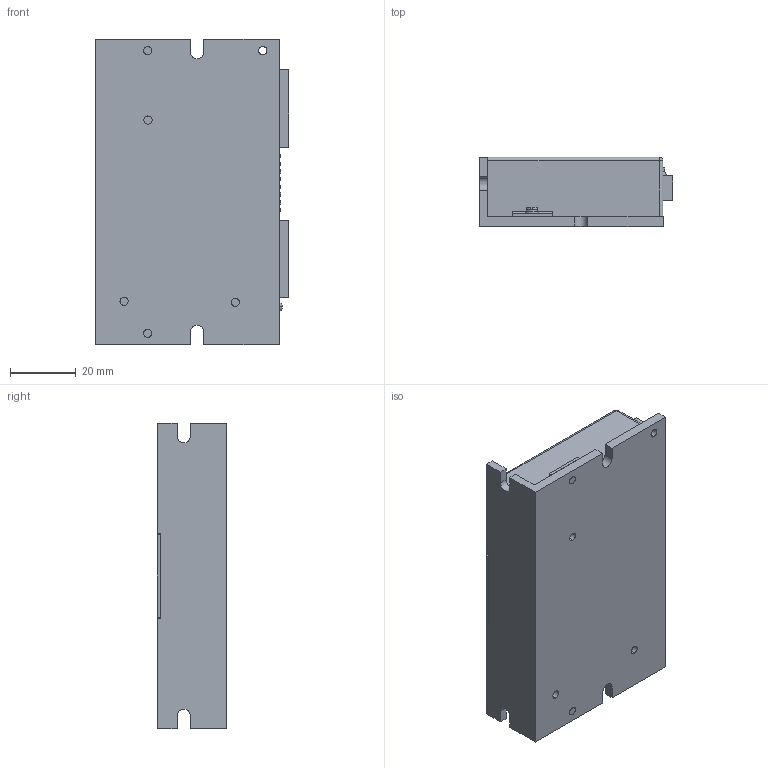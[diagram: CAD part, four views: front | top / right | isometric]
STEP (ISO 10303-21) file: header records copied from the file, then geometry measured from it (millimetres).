
FILE_DESCRIPTION((''),'2;1');
FILE_NAME('2SN422','2025-07-08T17:17:59',('Administrator'),(''),'CREO PARAMETRIC BY PTC INC, 2018400','CREO PARAMETRIC BY PTC INC, 2018400','');
FILE_SCHEMA(('CONFIG_CONTROL_DESIGN'));
Products named in the file (1): 2SN422
Bounding box: 58.9 x 21 x 93 mm (x, y, z)
Volume: 94128.4 mm3; surface area: 26663.5 mm2
Topology: 4 solids, 4 shells, 19224 faces, 54225 edges, 36136 vertices
Faces by surface type: plane 19069, cylinder 77, extrusion 64, torus 8, sphere 6
Entity records: 609821 total; most frequent: CARTESIAN_POINT 111553, ORIENTED_EDGE 108442, DIRECTION 92645, EDGE_CURVE 54221, VECTOR 53957, LINE 53893, VERTEX_POINT 36136, EDGE_LOOP 20369
